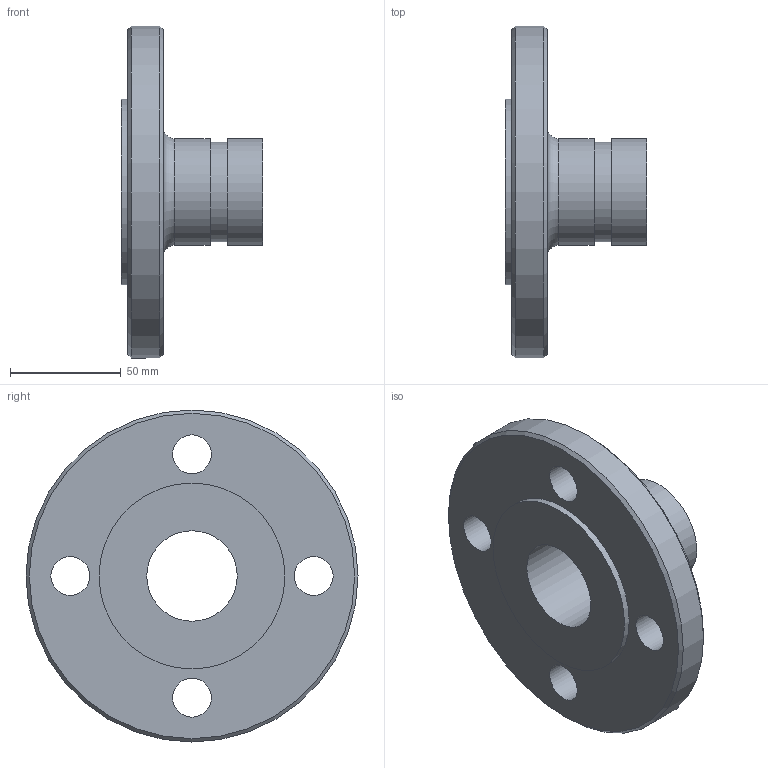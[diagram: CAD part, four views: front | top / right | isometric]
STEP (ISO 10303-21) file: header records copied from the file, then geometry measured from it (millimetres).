
FILE_DESCRIPTION(/* description */ ('VIC FLG ADPTR NIP PN10 RF No 45RE (OGSxFLG)'),/* implementation_level */ '2;1');
FILE_NAME(/* name */ 'C:\Users\vjadhav\OneDrive - Victaulic Company\Desktop\New folder\Victaulic_IPS_Flgd Adptr Nip_PN10 RF_No 45RE (OGSxFLG)\Victaulic_IPS_Flgd Adptr Nip_PN10 RF_No 45RE (OGSxFLG)_1.5 (40).stp',/* time_stamp */ '2024-04-01T13:02:01+02:00',/* author */ ('jheald'),/* organization */ ('Victaulic'),/* preprocessor_version */ 'ST-DEVELOPER v18.1',/* originating_system */ 'Autodesk Inventor 2020',/* authorisation */ '');
FILE_SCHEMA (('AUTOMOTIVE_DESIGN { 1 0 10303 214 3 1 1 }'));
Length unit declared in the file: inch
Products named in the file (1): 045RE-01.5
Bounding box: 64.01 x 149.99 x 149.99 mm (x, y, z)
Volume: 280099 mm3; surface area: 56902.2 mm2
Topology: 1 solids, 1 shells, 19 faces, 50 edges, 37 vertices
Faces by surface type: cylinder 10, plane 6, cone 2, torus 1
Full cylindrical faces by diameter (mm): 17.526 x4, 40.894 x1, 45.085 x1, 48.26 x2, 83.998 x1, 149.987 x1
Entity records: 712 total; most frequent: DIRECTION 128, CARTESIAN_POINT 107, ORIENTED_EDGE 100, AXIS2_PLACEMENT_3D 58, EDGE_CURVE 50, CIRCLE 38, VERTEX_POINT 37, EDGE_LOOP 33
